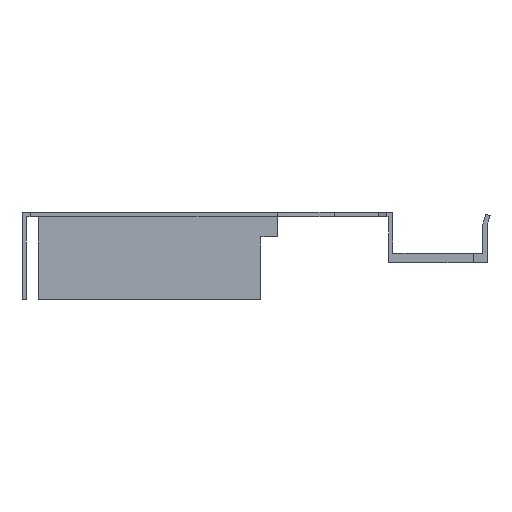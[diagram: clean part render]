
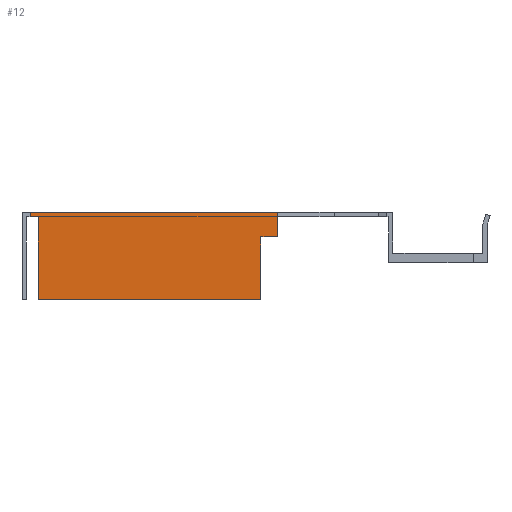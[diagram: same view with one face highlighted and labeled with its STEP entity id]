
A CAD part, left-side view. The second image highlights one B-rep face of the part: STEP entity #12.
In plain terms, the highlighted planar face has unit normal (-1, 0, 0).
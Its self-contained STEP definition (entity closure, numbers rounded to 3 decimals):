
#12 = ADVANCED_FACE ( 'NONE', ( #1332 ), #315, .T. ) ;
#83 = EDGE_CURVE ( 'NONE', #402, #443, #1439, .T. ) ;
#97 = EDGE_CURVE ( 'NONE', #421, #402, #1467, .T. ) ;
#98 = EDGE_CURVE ( 'NONE', #414, #388, #1469, .T. ) ;
#100 = EDGE_CURVE ( 'NONE', #386, #421, #1473, .T. ) ;
#101 = EDGE_CURVE ( 'NONE', #395, #433, #1475, .T. ) ;
#102 = EDGE_CURVE ( 'NONE', #443, #388, #1452, .T. ) ;
#164 = EDGE_CURVE ( 'NONE', #386, #395, #1587, .T. ) ;
#192 = EDGE_CURVE ( 'NONE', #433, #414, #1643, .T. ) ;
#217 = AXIS2_PLACEMENT_3D ( 'NONE', #312, #306, #305 ) ;
#305 = DIRECTION ( 'NONE',  ( 0., 0., 1. ) ) ;
#306 = DIRECTION ( 'NONE',  ( -1., 0., 0. ) ) ;
#312 = CARTESIAN_POINT ( 'NONE',  ( -861., -16.5, 0. ) ) ;
#315 = PLANE ( 'NONE',  #217 ) ;
#386 = VERTEX_POINT ( 'NONE', #881 ) ;
#388 = VERTEX_POINT ( 'NONE', #883 ) ;
#395 = VERTEX_POINT ( 'NONE', #890 ) ;
#402 = VERTEX_POINT ( 'NONE', #897 ) ;
#414 = VERTEX_POINT ( 'NONE', #909 ) ;
#421 = VERTEX_POINT ( 'NONE', #916 ) ;
#433 = VERTEX_POINT ( 'NONE', #928 ) ;
#443 = VERTEX_POINT ( 'NONE', #935 ) ;
#600 = CARTESIAN_POINT ( 'NONE',  ( -861., 24.2, -8.5 ) ) ;
#609 = DIRECTION ( 'NONE',  ( 0., 0., 1. ) ) ;
#632 = CARTESIAN_POINT ( 'NONE',  ( -861., 24.2, 3. ) ) ;
#636 = CARTESIAN_POINT ( 'NONE',  ( -861., 65., -8.5 ) ) ;
#637 = DIRECTION ( 'NONE',  ( 0., -1., 0. ) ) ;
#638 = CARTESIAN_POINT ( 'NONE',  ( -861., 21.2, 0. ) ) ;
#639 = DIRECTION ( 'NONE',  ( 0., 0., -1. ) ) ;
#642 = CARTESIAN_POINT ( 'NONE',  ( -861., 65., 7.5 ) ) ;
#643 = DIRECTION ( 'NONE',  ( 0., 0., -1. ) ) ;
#644 = CARTESIAN_POINT ( 'NONE',  ( -861., 66.5, 6.7 ) ) ;
#645 = DIRECTION ( 'NONE',  ( 0., 0., 1. ) ) ;
#647 = DIRECTION ( 'NONE',  ( 0., -1., 0. ) ) ;
#749 = DIRECTION ( 'NONE',  ( 0., 1., 0. ) ) ;
#750 = CARTESIAN_POINT ( 'NONE',  ( -861., 0.8, 6.7 ) ) ;
#802 = CARTESIAN_POINT ( 'NONE',  ( -861., 0., 7.5 ) ) ;
#803 = DIRECTION ( 'NONE',  ( 0., -1., 0. ) ) ;
#881 = CARTESIAN_POINT ( 'NONE',  ( -861., 65., 6.7 ) ) ;
#883 = CARTESIAN_POINT ( 'NONE',  ( -861., 21.2, 3. ) ) ;
#890 = CARTESIAN_POINT ( 'NONE',  ( -861., 66.5, 6.7 ) ) ;
#897 = CARTESIAN_POINT ( 'NONE',  ( -861., 24.2, -8.5 ) ) ;
#909 = CARTESIAN_POINT ( 'NONE',  ( -861., 21.2, 7.5 ) ) ;
#916 = CARTESIAN_POINT ( 'NONE',  ( -861., 65., -8.5 ) ) ;
#928 = CARTESIAN_POINT ( 'NONE',  ( -861., 66.5, 7.5 ) ) ;
#935 = CARTESIAN_POINT ( 'NONE',  ( -861., 24.2, 3. ) ) ;
#988 = EDGE_LOOP ( 'NONE', ( #1186, #1185, #1184, #1183, #1182, #1181, #1180, #1179 ) ) ;
#1179 = ORIENTED_EDGE ( 'NONE', *, *, #192, .F. ) ;
#1180 = ORIENTED_EDGE ( 'NONE', *, *, #98, .F. ) ;
#1181 = ORIENTED_EDGE ( 'NONE', *, *, #102, .T. ) ;
#1182 = ORIENTED_EDGE ( 'NONE', *, *, #83, .T. ) ;
#1183 = ORIENTED_EDGE ( 'NONE', *, *, #97, .T. ) ;
#1184 = ORIENTED_EDGE ( 'NONE', *, *, #100, .T. ) ;
#1185 = ORIENTED_EDGE ( 'NONE', *, *, #164, .F. ) ;
#1186 = ORIENTED_EDGE ( 'NONE', *, *, #101, .F. ) ;
#1332 = FACE_OUTER_BOUND ( 'NONE', #988, .T. ) ;
#1436 = VECTOR ( 'NONE', #609, 1000. ) ;
#1439 = LINE ( 'NONE', #600, #1436 ) ;
#1452 = LINE ( 'NONE', #632, #1477 ) ;
#1467 = LINE ( 'NONE', #636, #1468 ) ;
#1468 = VECTOR ( 'NONE', #637, 1000. ) ;
#1469 = LINE ( 'NONE', #638, #1470 ) ;
#1470 = VECTOR ( 'NONE', #639, 1000. ) ;
#1473 = LINE ( 'NONE', #642, #1474 ) ;
#1474 = VECTOR ( 'NONE', #643, 1000. ) ;
#1475 = LINE ( 'NONE', #644, #1476 ) ;
#1476 = VECTOR ( 'NONE', #645, 1000. ) ;
#1477 = VECTOR ( 'NONE', #647, 1000. ) ;
#1587 = LINE ( 'NONE', #750, #1588 ) ;
#1588 = VECTOR ( 'NONE', #749, 1000. ) ;
#1643 = LINE ( 'NONE', #802, #1644 ) ;
#1644 = VECTOR ( 'NONE', #803, 1000. ) ;
